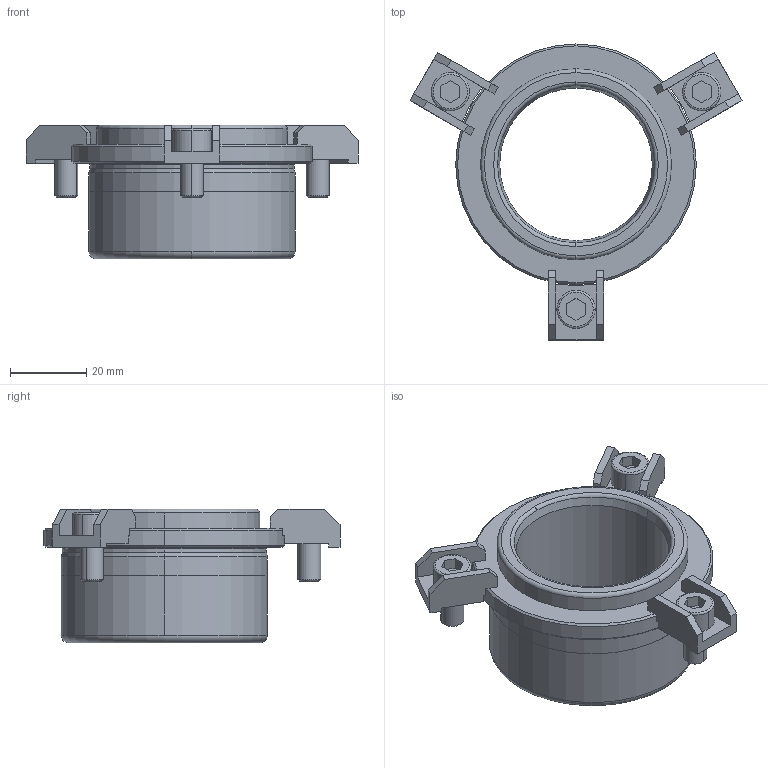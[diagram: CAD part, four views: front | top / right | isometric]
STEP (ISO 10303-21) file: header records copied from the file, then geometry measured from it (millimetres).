
FILE_DESCRIPTION((''),'2;1');
FILE_NAME('B42_032_025.stp','2008-11-04T14:30:50',(''),(''),'Mechanical Desktop 2009','Mechanical Desktop 2009',', , ');
FILE_SCHEMA(('CONFIG_CONTROL_DESIGN'));
Length unit declared in the file: millimetre
Products named in the file (2): Product; blmdl1
Assembly tree (1 placements, depth 2):
  Product
    blmdl1
Bounding box: 86.92 x 77.5 x 35 mm (x, y, z)
Volume: 42797.5 mm3; surface area: 18644.1 mm2
Topology: 7 solids, 7 shells, 185 faces, 474 edges, 312 vertices
Faces by surface type: plane 104, cylinder 39, cone 18, torus 14, bspline 10
Entity records: 6165 total; most frequent: CARTESIAN_POINT 1413, DIRECTION 1008, ORIENTED_EDGE 948, EDGE_CURVE 474, AXIS2_PLACEMENT_3D 357, VERTEX_POINT 312, VECTOR 294, LINE 294
